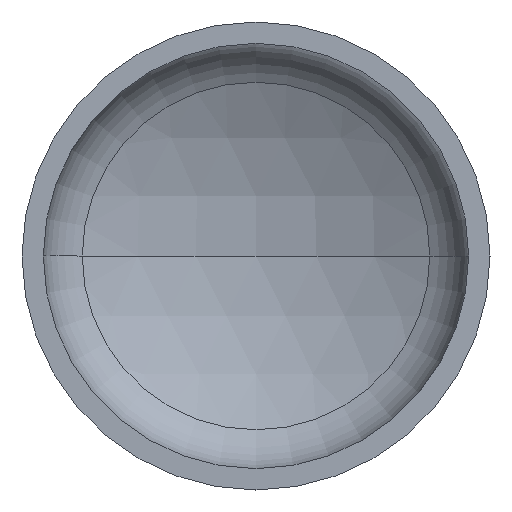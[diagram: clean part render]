
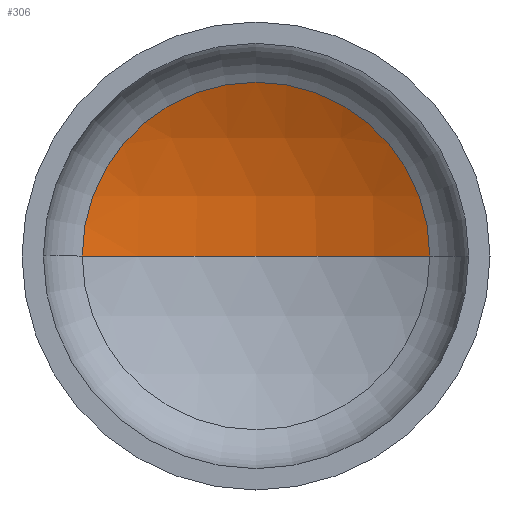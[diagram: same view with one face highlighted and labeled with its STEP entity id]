
A CAD part, front view. The second image highlights one B-rep face of the part: STEP entity #306.
In plain terms, the highlighted spherical face has radius 175 mm.
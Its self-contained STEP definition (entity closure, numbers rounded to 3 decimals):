
#40 = CIRCLE ( 'NONE', #284, 175. ) ;
#52 = VERTEX_POINT ( 'NONE', #203 ) ;
#55 = ORIENTED_EDGE ( 'NONE', *, *, #258, .T. ) ;
#66 = ORIENTED_EDGE ( 'NONE', *, *, #204, .F. ) ;
#70 = DIRECTION ( 'NONE',  ( 0., -1., 0. ) ) ;
#71 = EDGE_LOOP ( 'NONE', ( #66, #115, #55 ) ) ;
#85 = VERTEX_POINT ( 'NONE', #186 ) ;
#98 = VERTEX_POINT ( 'NONE', #165 ) ;
#115 = ORIENTED_EDGE ( 'NONE', *, *, #224, .T. ) ;
#120 = CARTESIAN_POINT ( 'NONE',  ( 0., -94.837, 0. ) ) ;
#148 = DIRECTION ( 'NONE',  ( 1., 0., 0. ) ) ;
#163 = AXIS2_PLACEMENT_3D ( 'NONE', #182, #385, #318 ) ;
#165 = CARTESIAN_POINT ( 'NONE',  ( 81.356, 60.102, 0. ) ) ;
#182 = CARTESIAN_POINT ( 'NONE',  ( 0., -94.837, 0. ) ) ;
#186 = CARTESIAN_POINT ( 'NONE',  ( 0., 80.163, 0. ) ) ;
#203 = CARTESIAN_POINT ( 'NONE',  ( -81.356, 60.102, 0. ) ) ;
#204 = EDGE_CURVE ( 'NONE', #85, #52, #40, .T. ) ;
#213 = DIRECTION ( 'NONE',  ( 0., 0., -1. ) ) ;
#214 = SPHERICAL_SURFACE ( 'NONE', #163, 175. ) ;
#224 = EDGE_CURVE ( 'NONE', #85, #98, #369, .T. ) ;
#225 = CIRCLE ( 'NONE', #411, 81.356 ) ;
#258 = EDGE_CURVE ( 'NONE', #98, #52, #225, .T. ) ;
#264 = CARTESIAN_POINT ( 'NONE',  ( 0., 60.102, 0. ) ) ;
#284 = AXIS2_PLACEMENT_3D ( 'NONE', #120, #315, #148 ) ;
#291 = DIRECTION ( 'NONE',  ( 1., 0., 0. ) ) ;
#306 = ADVANCED_FACE ( 'NONE', ( #408 ), #214, .F. ) ;
#315 = DIRECTION ( 'NONE',  ( 0., 0., 1. ) ) ;
#318 = DIRECTION ( 'NONE',  ( -1., 0., 0. ) ) ;
#352 = AXIS2_PLACEMENT_3D ( 'NONE', #363, #213, #383 ) ;
#363 = CARTESIAN_POINT ( 'NONE',  ( 0., -94.837, 0. ) ) ;
#369 = CIRCLE ( 'NONE', #352, 175. ) ;
#383 = DIRECTION ( 'NONE',  ( -1., 0., 0. ) ) ;
#385 = DIRECTION ( 'NONE',  ( 0., 0., -1. ) ) ;
#408 = FACE_OUTER_BOUND ( 'NONE', #71, .T. ) ;
#411 = AXIS2_PLACEMENT_3D ( 'NONE', #264, #70, #291 ) ;
